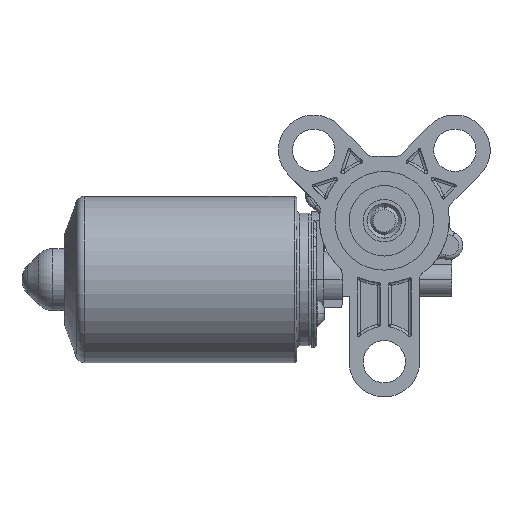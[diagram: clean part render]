
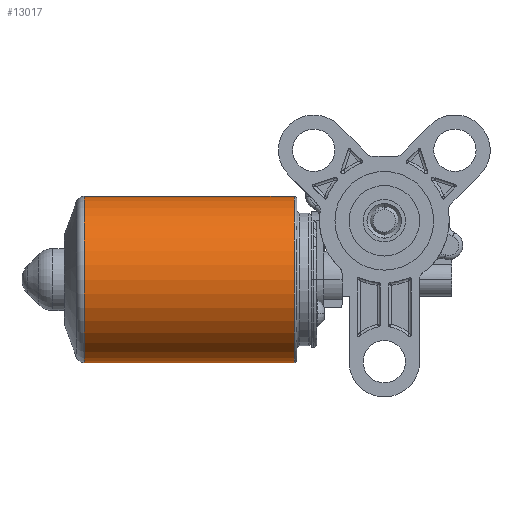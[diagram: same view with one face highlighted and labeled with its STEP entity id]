
A CAD part, front view. The second image highlights one B-rep face of the part: STEP entity #13017.
In plain terms, the highlighted cylindrical face has radius 29.5 mm (diameter 59 mm), a partial arc.
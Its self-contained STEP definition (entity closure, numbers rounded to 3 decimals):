
#12870 = EDGE_CURVE ( 'NONE', #12871, #12872, #55544, .T. ) ;
#12871 = VERTEX_POINT ( 'NONE', #55540 ) ;
#12872 = VERTEX_POINT ( 'NONE', #55604 ) ;
#12879 = VERTEX_POINT ( 'NONE', #55591 ) ;
#12881 = EDGE_CURVE ( 'NONE', #12882, #12879, #55590, .T. ) ;
#12882 = VERTEX_POINT ( 'NONE', #55585 ) ;
#12994 = ORIENTED_EDGE ( 'NONE', *, *, #12995, .T. ) ;
#12995 = EDGE_CURVE ( 'NONE', #12872, #12882, #55813, .T. ) ;
#12996 = ORIENTED_EDGE ( 'NONE', *, *, #12881, .T. ) ;
#12997 = ORIENTED_EDGE ( 'NONE', *, *, #12998, .F. ) ;
#12998 = EDGE_CURVE ( 'NONE', #12871, #12879, #55809, .T. ) ;
#13017 = ADVANCED_FACE ( 'NONE', ( #55892 ), #55891, .T. ) ;
#13018 = EDGE_LOOP ( 'NONE', ( #13019, #12994, #12996, #12997 ) ) ;
#13019 = ORIENTED_EDGE ( 'NONE', *, *, #12870, .T. ) ;
#55540 = CARTESIAN_POINT ( 'NONE',  ( -29.5, 0., 75.399 ) ) ;
#55541 = DIRECTION ( 'NONE',  ( 1., 0., 0. ) ) ;
#55542 = DIRECTION ( 'NONE',  ( 0., 0., -1. ) ) ;
#55543 = AXIS2_PLACEMENT_3D ( 'NONE', #55549, #55542, #55541 ) ;
#55544 = CIRCLE ( 'NONE', #55543, 29.5 ) ;
#55549 = CARTESIAN_POINT ( 'NONE',  ( 0., 0., 75.399 ) ) ;
#55585 = CARTESIAN_POINT ( 'NONE',  ( 29.5, 0., 1. ) ) ;
#55586 = DIRECTION ( 'NONE',  ( 1., 0., 0. ) ) ;
#55587 = DIRECTION ( 'NONE',  ( 0., 0., 1. ) ) ;
#55588 = CARTESIAN_POINT ( 'NONE',  ( 0., 0., 1. ) ) ;
#55589 = AXIS2_PLACEMENT_3D ( 'NONE', #55588, #55587, #55586 ) ;
#55590 = CIRCLE ( 'NONE', #55589, 29.5 ) ;
#55591 = CARTESIAN_POINT ( 'NONE',  ( -29.5, 0., 1. ) ) ;
#55604 = CARTESIAN_POINT ( 'NONE',  ( 29.5, 0., 75.399 ) ) ;
#55806 = DIRECTION ( 'NONE',  ( 0., 0., -1. ) ) ;
#55807 = VECTOR ( 'NONE', #55806, 1000. ) ;
#55808 = CARTESIAN_POINT ( 'NONE',  ( -29.5, 0., 82.5 ) ) ;
#55809 = LINE ( 'NONE', #55808, #55807 ) ;
#55810 = DIRECTION ( 'NONE',  ( 0., 0., -1. ) ) ;
#55811 = VECTOR ( 'NONE', #55810, 1000. ) ;
#55812 = CARTESIAN_POINT ( 'NONE',  ( 29.5, 0., 82.5 ) ) ;
#55813 = LINE ( 'NONE', #55812, #55811 ) ;
#55887 = DIRECTION ( 'NONE',  ( -1., 0., 0. ) ) ;
#55888 = DIRECTION ( 'NONE',  ( 0., 0., -1. ) ) ;
#55889 = CARTESIAN_POINT ( 'NONE',  ( 0., 0., 82.5 ) ) ;
#55890 = AXIS2_PLACEMENT_3D ( 'NONE', #55889, #55888, #55887 ) ;
#55891 = CYLINDRICAL_SURFACE ( 'NONE', #55890, 29.5 ) ;
#55892 = FACE_OUTER_BOUND ( 'NONE', #13018, .T. ) ;
